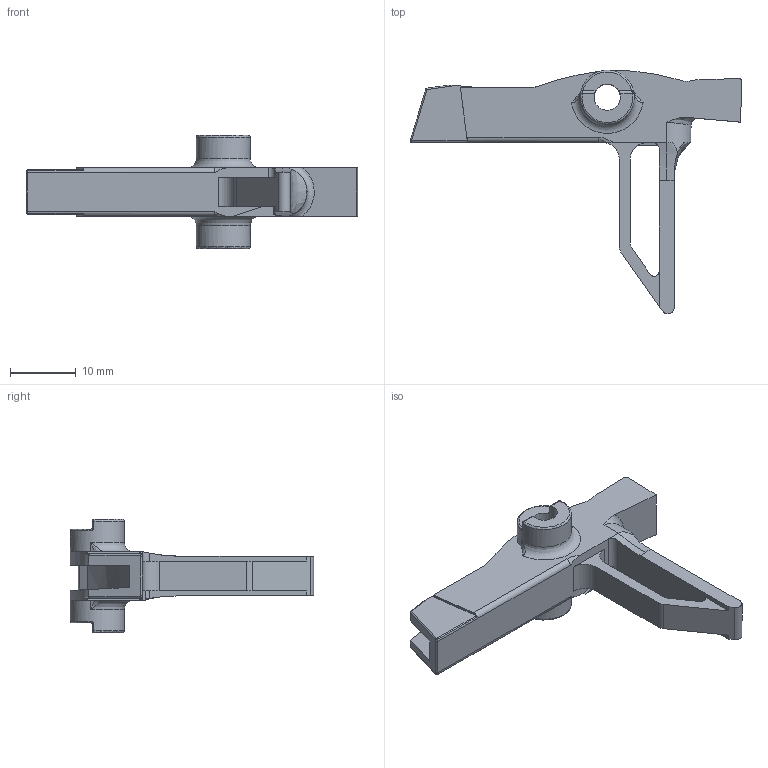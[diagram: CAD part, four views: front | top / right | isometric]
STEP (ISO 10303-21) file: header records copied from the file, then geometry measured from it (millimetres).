
FILE_DESCRIPTION(/* description */ (''),/* implementation_level */ '2;1');
FILE_NAME(/* name */ 'D:/Pew Pews/FGC-9_MkII_Stingray_Edition/Stingray Edition/.step files/2 - Lower/Trigger.step',/* time_stamp */ '2022-05-12T09:42:19-06:00',/* author */ (''),/* organization */ (''),/* preprocessor_version */ 'ST-DEVELOPER v18.1',/* originating_system */ 'Autodesk Translation Framework v10.10.0.1391',/* authorisation */ '');
FILE_SCHEMA (('AUTOMOTIVE_DESIGN { 1 0 10303 214 3 1 1 }'));
Length unit declared in the file: millimetre
Products named in the file (1): Trigger custom
Bounding box: 50.28 x 36.89 x 17.17 mm (x, y, z)
Volume: 3022.9 mm3; surface area: 3250 mm2
Topology: 1 solids, 1 shells, 133 faces, 374 edges, 236 vertices
Faces by surface type: cylinder 51, plane 47, bspline 22, torus 7, sphere 6
Full cylindrical faces by diameter (mm): 3.962 x2, 4.166 x1, 8.179 x2
Entity records: 5752 total; most frequent: CARTESIAN_POINT 2359, ORIENTED_EDGE 742, DIRECTION 674, EDGE_CURVE 371, AXIS2_PLACEMENT_3D 252, VERTEX_POINT 236, LINE 170, VECTOR 170
